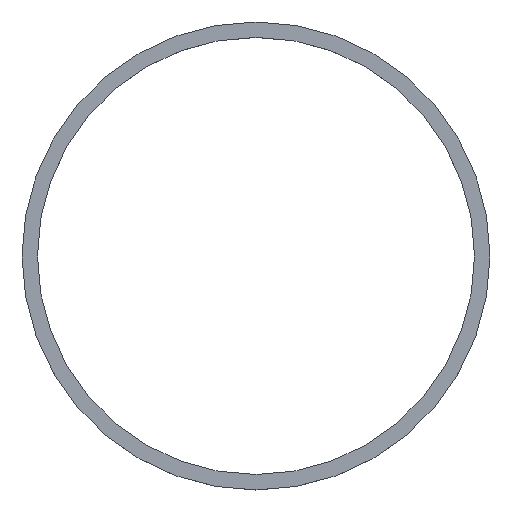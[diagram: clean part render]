
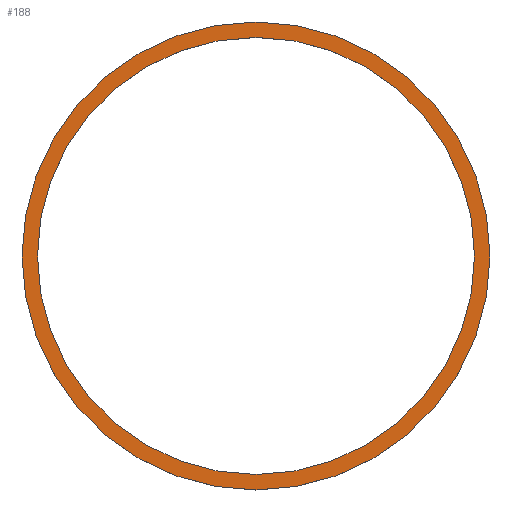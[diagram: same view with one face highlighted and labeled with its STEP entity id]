
A CAD part, top view. The second image highlights one B-rep face of the part: STEP entity #188.
In plain terms, the highlighted planar face has unit normal (0, 0, 1).
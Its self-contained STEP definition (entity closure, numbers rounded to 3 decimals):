
#9 = CARTESIAN_POINT ( 'NONE',  ( -30.3, 0., 1.575 ) ) ;
#16 = FACE_BOUND ( 'NONE', #135, .T. ) ;
#19 = AXIS2_PLACEMENT_3D ( 'NONE', #193, #100, #26 ) ;
#23 = EDGE_LOOP ( 'NONE', ( #170, #173 ) ) ;
#26 = DIRECTION ( 'NONE',  ( 1., 0., 0. ) ) ;
#29 = CARTESIAN_POINT ( 'NONE',  ( 0., 0., 1.575 ) ) ;
#33 = DIRECTION ( 'NONE',  ( 0., 0., 1. ) ) ;
#34 = DIRECTION ( 'NONE',  ( -1., 0., 0. ) ) ;
#35 = FACE_OUTER_BOUND ( 'NONE', #23, .T. ) ;
#36 = AXIS2_PLACEMENT_3D ( 'NONE', #150, #117, #34 ) ;
#37 = ORIENTED_EDGE ( 'NONE', *, *, #88, .F. ) ;
#45 = VERTEX_POINT ( 'NONE', #9 ) ;
#46 = AXIS2_PLACEMENT_3D ( 'NONE', #60, #178, #142 ) ;
#50 = CIRCLE ( 'NONE', #46, 28.3 ) ;
#56 = EDGE_CURVE ( 'NONE', #160, #92, #175, .T. ) ;
#60 = CARTESIAN_POINT ( 'NONE',  ( 0., 0., 1.575 ) ) ;
#62 = ORIENTED_EDGE ( 'NONE', *, *, #56, .F. ) ;
#66 = CARTESIAN_POINT ( 'NONE',  ( 28.3, 0., 1.575 ) ) ;
#83 = CIRCLE ( 'NONE', #196, 30.3 ) ;
#88 = EDGE_CURVE ( 'NONE', #92, #160, #50, .T. ) ;
#89 = PLANE ( 'NONE',  #36 ) ;
#92 = VERTEX_POINT ( 'NONE', #174 ) ;
#100 = DIRECTION ( 'NONE',  ( 0., 0., 1. ) ) ;
#117 = DIRECTION ( 'NONE',  ( 0., 0., -1. ) ) ;
#121 = EDGE_CURVE ( 'NONE', #45, #137, #167, .T. ) ;
#126 = CARTESIAN_POINT ( 'NONE',  ( 30.3, 0., 1.575 ) ) ;
#130 = CARTESIAN_POINT ( 'NONE',  ( 0., 0., 1.575 ) ) ;
#133 = DIRECTION ( 'NONE',  ( 1., 0., 0. ) ) ;
#135 = EDGE_LOOP ( 'NONE', ( #62, #37 ) ) ;
#137 = VERTEX_POINT ( 'NONE', #126 ) ;
#142 = DIRECTION ( 'NONE',  ( 1., 0., 0. ) ) ;
#150 = CARTESIAN_POINT ( 'NONE',  ( 0., 30.3, 1.575 ) ) ;
#154 = DIRECTION ( 'NONE',  ( 0., 0., 1. ) ) ;
#160 = VERTEX_POINT ( 'NONE', #66 ) ;
#167 = CIRCLE ( 'NONE', #198, 30.3 ) ;
#170 = ORIENTED_EDGE ( 'NONE', *, *, #179, .T. ) ;
#173 = ORIENTED_EDGE ( 'NONE', *, *, #121, .T. ) ;
#174 = CARTESIAN_POINT ( 'NONE',  ( -28.3, 0., 1.575 ) ) ;
#175 = CIRCLE ( 'NONE', #19, 28.3 ) ;
#178 = DIRECTION ( 'NONE',  ( 0., 0., 1. ) ) ;
#179 = EDGE_CURVE ( 'NONE', #137, #45, #83, .T. ) ;
#188 = ADVANCED_FACE ( 'NONE', ( #16, #35 ), #89, .F. ) ;
#193 = CARTESIAN_POINT ( 'NONE',  ( 0., 0., 1.575 ) ) ;
#194 = DIRECTION ( 'NONE',  ( 1., 0., 0. ) ) ;
#196 = AXIS2_PLACEMENT_3D ( 'NONE', #29, #33, #133 ) ;
#198 = AXIS2_PLACEMENT_3D ( 'NONE', #130, #154, #194 ) ;
